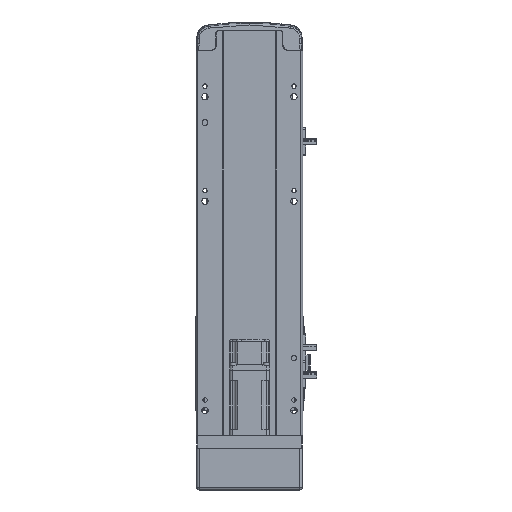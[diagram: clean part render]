
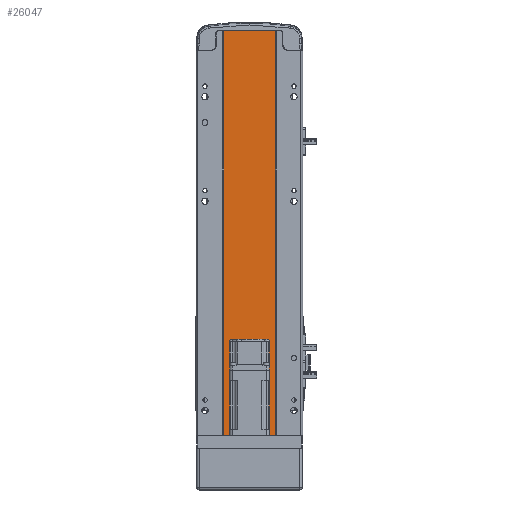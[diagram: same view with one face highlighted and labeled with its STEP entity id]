
A CAD part, front view. The second image highlights one B-rep face of the part: STEP entity #26047.
In plain terms, the highlighted planar face has unit normal (0, -1, 0).
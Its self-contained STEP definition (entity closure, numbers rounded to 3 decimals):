
#765 = DIRECTION ( 'NONE',  ( 0., 0., 1. ) ) ;
#2902 = CARTESIAN_POINT ( 'NONE',  ( -24.5, 2., 387. ) ) ;
#4560 = EDGE_CURVE ( 'NONE', #11917, #11516, #53823, .T. ) ;
#6045 = LINE ( 'NONE', #27513, #37777 ) ;
#6306 = DIRECTION ( 'NONE',  ( 1., 0., 0. ) ) ;
#7384 = DIRECTION ( 'NONE',  ( 0., 0., -1. ) ) ;
#7820 = VECTOR ( 'NONE', #6306, 1000. ) ;
#9218 = LINE ( 'NONE', #15723, #7820 ) ;
#11516 = VERTEX_POINT ( 'NONE', #25429 ) ;
#11917 = VERTEX_POINT ( 'NONE', #34038 ) ;
#13015 = VECTOR ( 'NONE', #7384, 1000. ) ;
#14038 = CARTESIAN_POINT ( 'NONE',  ( 0., 2., 387. ) ) ;
#14586 = PLANE ( 'NONE',  #53084 ) ;
#15723 = CARTESIAN_POINT ( 'NONE',  ( 0., 2., 0. ) ) ;
#19036 = DIRECTION ( 'NONE',  ( 0., 1., 0. ) ) ;
#20814 = VERTEX_POINT ( 'NONE', #31562 ) ;
#20930 = EDGE_CURVE ( 'NONE', #20814, #48856, #9218, .T. ) ;
#22303 = ORIENTED_EDGE ( 'NONE', *, *, #4560, .F. ) ;
#25078 = DIRECTION ( 'NONE',  ( 1., 0., 0. ) ) ;
#25429 = CARTESIAN_POINT ( 'NONE',  ( 24.5, 2., 387. ) ) ;
#26047 = ADVANCED_FACE ( 'NONE', ( #50709 ), #14586, .F. ) ;
#26251 = CARTESIAN_POINT ( 'NONE',  ( 24.5, 2., 0. ) ) ;
#27513 = CARTESIAN_POINT ( 'NONE',  ( -24.5, 2., 387. ) ) ;
#27635 = CARTESIAN_POINT ( 'NONE',  ( 24.5, 2., 387. ) ) ;
#27663 = VECTOR ( 'NONE', #25078, 1000. ) ;
#30950 = ORIENTED_EDGE ( 'NONE', *, *, #42801, .T. ) ;
#31312 = EDGE_CURVE ( 'NONE', #11516, #48856, #57050, .T. ) ;
#31562 = CARTESIAN_POINT ( 'NONE',  ( -24.5, 2., 0. ) ) ;
#34038 = CARTESIAN_POINT ( 'NONE',  ( -24.5, 2., 387. ) ) ;
#37777 = VECTOR ( 'NONE', #46301, 1000. ) ;
#42801 = EDGE_CURVE ( 'NONE', #11917, #20814, #6045, .T. ) ;
#44200 = ORIENTED_EDGE ( 'NONE', *, *, #31312, .F. ) ;
#46301 = DIRECTION ( 'NONE',  ( 0., 0., -1. ) ) ;
#48466 = ORIENTED_EDGE ( 'NONE', *, *, #20930, .T. ) ;
#48856 = VERTEX_POINT ( 'NONE', #26251 ) ;
#50709 = FACE_OUTER_BOUND ( 'NONE', #56407, .T. ) ;
#53084 = AXIS2_PLACEMENT_3D ( 'NONE', #14038, #19036, #765 ) ;
#53823 = LINE ( 'NONE', #2902, #27663 ) ;
#56407 = EDGE_LOOP ( 'NONE', ( #48466, #44200, #22303, #30950 ) ) ;
#57050 = LINE ( 'NONE', #27635, #13015 ) ;
